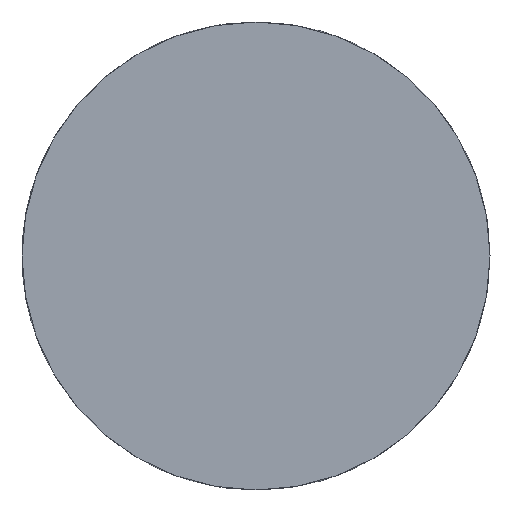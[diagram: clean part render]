
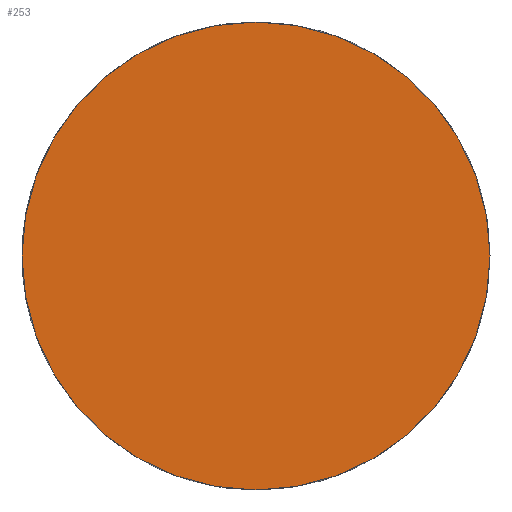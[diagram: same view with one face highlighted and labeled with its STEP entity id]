
A CAD part, left-side view. The second image highlights one B-rep face of the part: STEP entity #253.
In plain terms, the highlighted planar face has unit normal (-1, 0, 0).
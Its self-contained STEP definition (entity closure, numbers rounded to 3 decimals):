
#253 = ADVANCED_FACE( '', ( #522 ), #523, .F. );
#522 = FACE_OUTER_BOUND( '', #803, .T. );
#523 = PLANE( '', #804 );
#803 = EDGE_LOOP( '', ( #1579 ) );
#804 = AXIS2_PLACEMENT_3D( '', #1580, #1581, #1582 );
#1579 = ORIENTED_EDGE( '', *, *, #1861, .F. );
#1580 = CARTESIAN_POINT( '', ( 0., 0., 0. ) );
#1581 = DIRECTION( '', ( 1., 0., 0. ) );
#1582 = DIRECTION( '', ( 0., 1., 0. ) );
#1861 = EDGE_CURVE( '', #2293, #2293, #2294, .T. );
#2293 = VERTEX_POINT( '', #2873 );
#2294 = CIRCLE( '', #2874, 4.87 );
#2873 = CARTESIAN_POINT( '', ( 0., 4.87, 0. ) );
#2874 = AXIS2_PLACEMENT_3D( '', #3503, #3504, #3505 );
#3503 = CARTESIAN_POINT( '', ( 0., 0., 0. ) );
#3504 = DIRECTION( '', ( 1., 0., 0. ) );
#3505 = DIRECTION( '', ( 0., 1., 0. ) );
